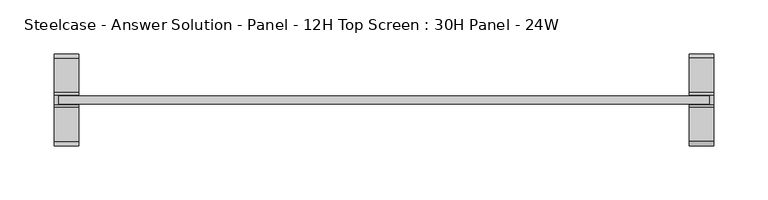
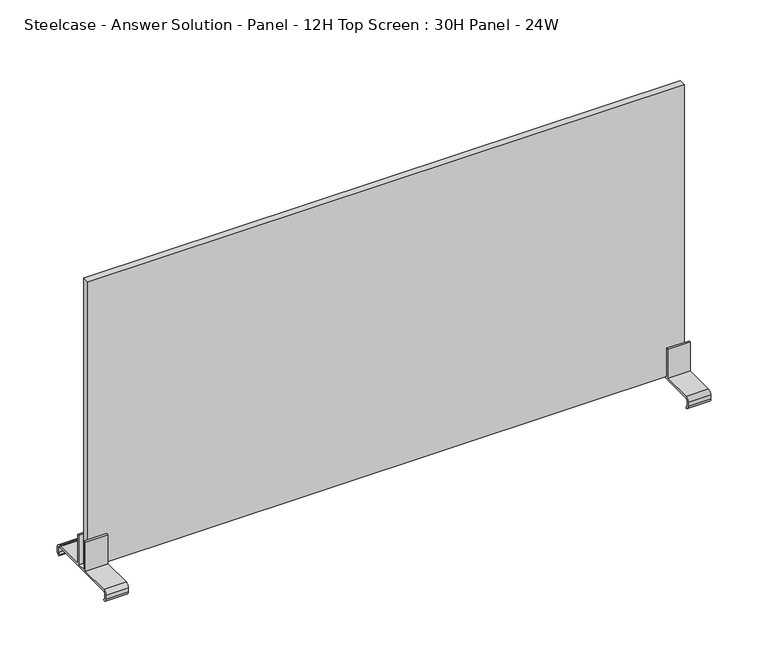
"""IFC4 building model written with IfcOpenShell, lengths in millimetres: furniture geometry, Steelcase - Answer Solution - Panel - 12H Top Screen : 30H Panel - 24W."""

from ifc_helpers import new_model, si_unit, point, frame, frame_2d, origin, place, context, project, spatial, polyline, circle_curve, trimmed, segment, composite_curve, outline, extrude, source, transform, mapped, element, save


def steelcase_answer_solution_panel_12h_top_screen_30h_panel_24w_513f20a0(model_context):
    return source(origin(), model_context, "Body", "SweptSolid", [
        extrude(outline(polyline([(300.736, -3.683001), (-300.736, -3.683001), (-300.736, 3.683001), (300.736, 3.683001), (300.736, -3.683001)])), frame((0.0, 0.0, 770.3819981), z_axis=(0.0, 0.0, 1.0), x_axis=(1.0, 0.0, 0.0)), (0.0, 0.0, 1.0), 304.8),
        extrude(outline(composite_curve([segment(trimmed(circle_curve(frame_2d((38.5445, 766.445)), 1.905), [point((40.4495, 766.445))], [point((38.5445, 768.35))], True, "CARTESIAN"), True, "CONTINUOUS"), segment(polyline([(38.5445, 768.35), (-38.5445, 768.35)]), True, "CONTINUOUS"), segment(trimmed(circle_curve(frame_2d((-38.5445, 766.445)), 1.905), [point((-38.5445, 768.35))], [point((-40.4495, 766.445))], True, "CARTESIAN"), True, "CONTINUOUS"), segment(polyline([(-40.4495, 766.445), (-40.4495, 761.8341187)]), True, "CONTINUOUS"), segment(trimmed(circle_curve(frame_2d((-38.5445, 761.8341187)), 1.905), [point((-40.4495, 761.8341187))], [point((-38.6743328, 759.9335481))], True, "CARTESIAN"), True, "CONTINUOUS"), segment(polyline([(-38.6743328, 759.9335481), (-39.2392449, 758.3535566)]), True, "CONTINUOUS"), segment(trimmed(circle_curve(frame_2d((-38.5459934, 762.2284569)), 3.9364261), [point((-39.2392449, 758.3535566))], [point((-42.4824195, 762.2284569))], False, "CARTESIAN"), True, "CONTINUOUS"), segment(polyline([(-42.4824195, 762.2284569), (-42.4824195, 766.4452288)]), True, "CONTINUOUS"), segment(trimmed(circle_curve(frame_2d((-38.5459934, 766.4452288)), 3.9364261), [point((-42.4824195, 766.4452288))], [point((-38.5459934, 770.3816549))], False, "CARTESIAN"), True, "CONTINUOUS"), segment(polyline([(-38.5459934, 770.3816549), (-6.7310004, 770.3816549), (-6.7310004, 801.3699952), (-4.699, 801.3699952), (-4.699, 770.3819952), (4.699, 770.3819952), (4.699, 801.3700048), (6.7310004, 801.3700048), (6.7310004, 770.3816549), (38.5459934, 770.3816549)]), True, "CONTINUOUS"), segment(trimmed(circle_curve(frame_2d((38.5459934, 766.4452288)), 3.9364261), [point((38.5459934, 770.3816549))], [point((42.4824195, 766.4452288))], False, "CARTESIAN"), True, "CONTINUOUS"), segment(polyline([(42.4824195, 766.4452288), (42.4824195, 762.2284569)]), True, "CONTINUOUS"), segment(trimmed(circle_curve(frame_2d((38.5459934, 762.2284569)), 3.9364261), [point((42.4824195, 762.2284569))], [point((39.6631716, 758.4538889))], False, "CARTESIAN"), True, "CONTINUOUS"), segment(polyline([(39.6631716, 758.4538889), (39.1055128, 760.0135996)]), True, "CONTINUOUS"), segment(trimmed(circle_curve(frame_2d((38.5445, 761.8341187)), 1.905), [point((39.1055128, 760.0135996))], [point((40.4495, 761.8341187))], True, "CARTESIAN"), True, "CONTINUOUS"), segment(polyline([(40.4495, 761.8341187), (40.4495, 766.445)]), True, "CONTINUOUS")], self_intersect=False)), frame((282.194, 0.0, 0.0), z_axis=(1.0, 0.0, 0.0), x_axis=(0.0, 1.0, 0.0)), (0.0, 0.0, 1.0), 22.606),
        extrude(outline(composite_curve([segment(trimmed(circle_curve(frame_2d((38.5445, 766.445)), 1.905), [point((40.4495, 766.445))], [point((38.5445, 768.35))], True, "CARTESIAN"), True, "CONTINUOUS"), segment(polyline([(38.5445, 768.35), (-38.5445, 768.35)]), True, "CONTINUOUS"), segment(trimmed(circle_curve(frame_2d((-38.5445, 766.445)), 1.905), [point((-38.5445, 768.35))], [point((-40.4495, 766.445))], True, "CARTESIAN"), True, "CONTINUOUS"), segment(polyline([(-40.4495, 766.445), (-40.4495, 761.8341187)]), True, "CONTINUOUS"), segment(trimmed(circle_curve(frame_2d((-38.5445, 761.8341187)), 1.905), [point((-40.4495, 761.8341187))], [point((-38.6743328, 759.9335481))], True, "CARTESIAN"), True, "CONTINUOUS"), segment(polyline([(-38.6743328, 759.9335481), (-39.2392449, 758.3535566)]), True, "CONTINUOUS"), segment(trimmed(circle_curve(frame_2d((-38.5459934, 762.2284569)), 3.9364261), [point((-39.2392449, 758.3535566))], [point((-42.4824195, 762.2284569))], False, "CARTESIAN"), True, "CONTINUOUS"), segment(polyline([(-42.4824195, 762.2284569), (-42.4824195, 766.4452288)]), True, "CONTINUOUS"), segment(trimmed(circle_curve(frame_2d((-38.5459934, 766.4452288)), 3.9364261), [point((-42.4824195, 766.4452288))], [point((-38.5459934, 770.3816549))], False, "CARTESIAN"), True, "CONTINUOUS"), segment(polyline([(-38.5459934, 770.3816549), (-6.7310004, 770.3816549), (-6.7310004, 801.3699952), (-4.699, 801.3699952), (-4.699, 770.3819952), (4.699, 770.3819952), (4.699, 801.3700048), (6.7310004, 801.3700048), (6.7310004, 770.3816549), (38.5459934, 770.3816549)]), True, "CONTINUOUS"), segment(trimmed(circle_curve(frame_2d((38.5459934, 766.4452288)), 3.9364261), [point((38.5459934, 770.3816549))], [point((42.4824195, 766.4452288))], False, "CARTESIAN"), True, "CONTINUOUS"), segment(polyline([(42.4824195, 766.4452288), (42.4824195, 762.2284569)]), True, "CONTINUOUS"), segment(trimmed(circle_curve(frame_2d((38.5459934, 762.2284569)), 3.9364261), [point((42.4824195, 762.2284569))], [point((39.6631716, 758.4538889))], False, "CARTESIAN"), True, "CONTINUOUS"), segment(polyline([(39.6631716, 758.4538889), (39.1055128, 760.0135996)]), True, "CONTINUOUS"), segment(trimmed(circle_curve(frame_2d((38.5445, 761.8341187)), 1.905), [point((39.1055128, 760.0135996))], [point((40.4495, 761.8341187))], True, "CARTESIAN"), True, "CONTINUOUS"), segment(polyline([(40.4495, 761.8341187), (40.4495, 766.445)]), True, "CONTINUOUS")], self_intersect=False)), frame((-304.8, 0.0, 0.0), z_axis=(1.0, 0.0, 0.0), x_axis=(0.0, 1.0, 0.0)), (0.0, 0.0, 1.0), 22.606),
    ])


if __name__ == "__main__":
    model = new_model("IFC4")
    model_context = context("Model", 3, world=origin())
    ifc_project = project(units=[si_unit("LENGTHUNIT", "METRE", prefix="MILLI")], contexts=[model_context])
    site = spatial("IfcSite", under=ifc_project)
    building = spatial("IfcBuilding", under=site)
    placement = place(None, origin())
    steelcase_answer_solution_panel_12h_top_screen_30h_panel_24w_shape = steelcase_answer_solution_panel_12h_top_screen_30h_panel_24w_513f20a0(model_context)
    element("IfcFurniture", 1, ObjectType="Steelcase - Answer Solution - Panel - 12H Top Screen : 30H Panel - 24W", at=placement, inside=building, context=model_context, shape_type="MappedRepresentation", body=[
        mapped(steelcase_answer_solution_panel_12h_top_screen_30h_panel_24w_shape, transform((0.0, 0.0, 0.0), x_axis=(1.0, 0.0, 0.0), y_axis=(0.0, 1.0, 0.0), z_axis=(0.0, 0.0, 1.0))),
    ])
    save(model, "model.ifc")
